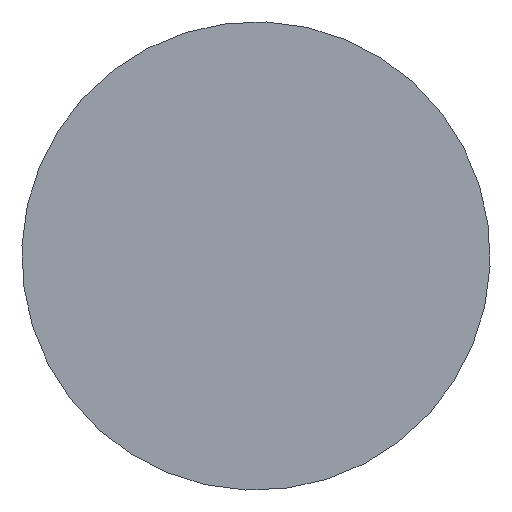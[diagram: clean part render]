
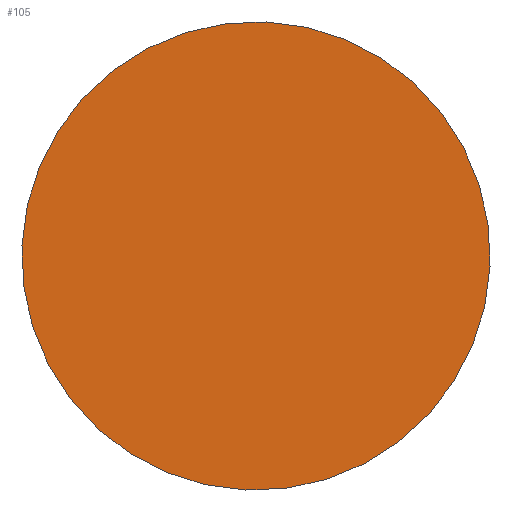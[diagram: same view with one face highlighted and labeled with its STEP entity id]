
A CAD part, front view. The second image highlights one B-rep face of the part: STEP entity #105.
In plain terms, the highlighted planar face has unit normal (0, -1, 0).
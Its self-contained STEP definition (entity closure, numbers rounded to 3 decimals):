
#22 = VERTEX_POINT('',#23);
#23 = CARTESIAN_POINT('',(-17.626,-17.5,47.644));
#32 = CYLINDRICAL_SURFACE('',#33,2.);
#33 = AXIS2_PLACEMENT_3D('',#34,#35,#36);
#34 = CARTESIAN_POINT('',(-19.578,-17.5,48.077));
#35 = DIRECTION('',(0.,-1.,-0.));
#36 = DIRECTION('',(0.976,0.,-0.216));
#79 = EDGE_CURVE('',#22,#22,#80,.T.);
#80 = SURFACE_CURVE('',#81,(#86,#93),.PCURVE_S1.);
#81 = CIRCLE('',#82,2.);
#82 = AXIS2_PLACEMENT_3D('',#83,#84,#85);
#83 = CARTESIAN_POINT('',(-19.578,-17.5,48.077));
#84 = DIRECTION('',(0.,1.,0.));
#85 = DIRECTION('',(0.976,0.,-0.216));
#86 = PCURVE('',#32,#87);
#87 = DEFINITIONAL_REPRESENTATION('',(#88),#92);
#88 = LINE('',#89,#90);
#89 = CARTESIAN_POINT('',(-0.,0.));
#90 = VECTOR('',#91,1.);
#91 = DIRECTION('',(-1.,0.));
#92 = ( GEOMETRIC_REPRESENTATION_CONTEXT(2) 
PARAMETRIC_REPRESENTATION_CONTEXT() REPRESENTATION_CONTEXT('2D SPACE',''
  ) );
#93 = PCURVE('',#94,#99);
#94 = PLANE('',#95);
#95 = AXIS2_PLACEMENT_3D('',#96,#97,#98);
#96 = CARTESIAN_POINT('',(-19.578,-17.5,48.077));
#97 = DIRECTION('',(0.,1.,0.));
#98 = DIRECTION('',(0.216,0.,0.976));
#99 = DEFINITIONAL_REPRESENTATION('',(#100),#104);
#100 = CIRCLE('',#101,2.);
#101 = AXIS2_PLACEMENT_2D('',#102,#103);
#102 = CARTESIAN_POINT('',(0.,0.));
#103 = DIRECTION('',(0.,1.));
#104 = ( GEOMETRIC_REPRESENTATION_CONTEXT(2) 
PARAMETRIC_REPRESENTATION_CONTEXT() REPRESENTATION_CONTEXT('2D SPACE',''
  ) );
#105 = ADVANCED_FACE('',(#106),#94,.F.);
#106 = FACE_BOUND('',#107,.F.);
#107 = EDGE_LOOP('',(#108));
#108 = ORIENTED_EDGE('',*,*,#79,.T.);
